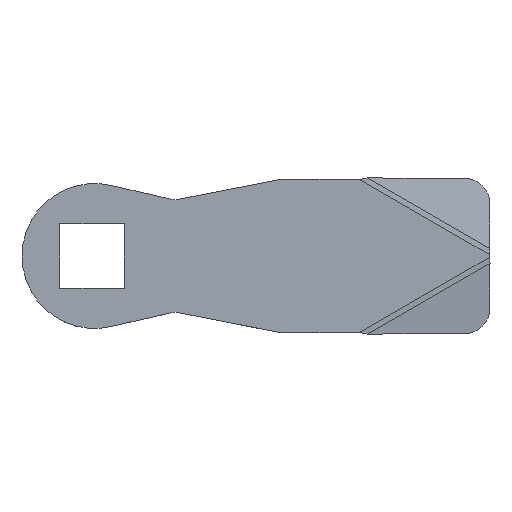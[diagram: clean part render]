
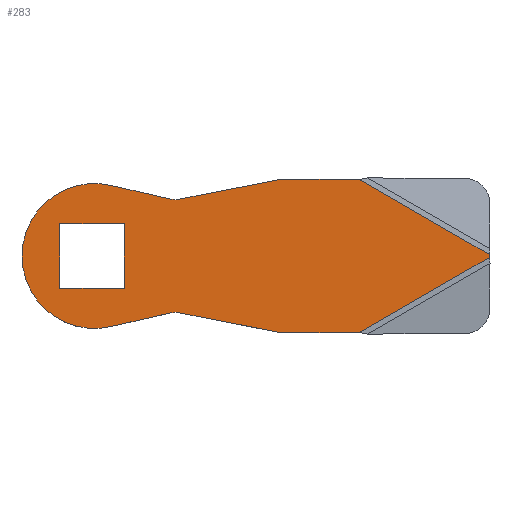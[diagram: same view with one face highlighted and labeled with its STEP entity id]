
A CAD part, top view. The second image highlights one B-rep face of the part: STEP entity #283.
In plain terms, the highlighted planar face has unit normal (0, 0, 1).
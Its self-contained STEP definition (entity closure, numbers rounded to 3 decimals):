
#12 = VERTEX_POINT ( 'NONE', #515 ) ;
#13 = VERTEX_POINT ( 'NONE', #514 ) ;
#16 = ORIENTED_EDGE ( 'NONE', *, *, #37, .T. ) ;
#37 = EDGE_CURVE ( 'NONE', #12, #47, #469, .T. ) ;
#45 = EDGE_CURVE ( 'NONE', #102, #251, #380, .T. ) ;
#47 = VERTEX_POINT ( 'NONE', #375 ) ;
#77 = ORIENTED_EDGE ( 'NONE', *, *, #78, .T. ) ;
#78 = EDGE_CURVE ( 'NONE', #252, #79, #354, .T. ) ;
#79 = VERTEX_POINT ( 'NONE', #350 ) ;
#90 = VERTEX_POINT ( 'NONE', #447 ) ;
#91 = ORIENTED_EDGE ( 'NONE', *, *, #92, .T. ) ;
#92 = EDGE_CURVE ( 'NONE', #179, #93, #486, .T. ) ;
#93 = VERTEX_POINT ( 'NONE', #482 ) ;
#94 = ORIENTED_EDGE ( 'NONE', *, *, #95, .T. ) ;
#95 = EDGE_CURVE ( 'NONE', #93, #175, #481, .T. ) ;
#99 = ORIENTED_EDGE ( 'NONE', *, *, #120, .T. ) ;
#100 = VERTEX_POINT ( 'NONE', #670 ) ;
#101 = EDGE_CURVE ( 'NONE', #114, #108, #573, .T. ) ;
#102 = VERTEX_POINT ( 'NONE', #589 ) ;
#103 = ORIENTED_EDGE ( 'NONE', *, *, #104, .T. ) ;
#104 = EDGE_CURVE ( 'NONE', #108, #102, #565, .T. ) ;
#105 = ORIENTED_EDGE ( 'NONE', *, *, #45, .T. ) ;
#106 = ORIENTED_EDGE ( 'NONE', *, *, #113, .T. ) ;
#107 = ORIENTED_EDGE ( 'NONE', *, *, #101, .T. ) ;
#108 = VERTEX_POINT ( 'NONE', #588 ) ;
#109 = ORIENTED_EDGE ( 'NONE', *, *, #110, .T. ) ;
#110 = EDGE_CURVE ( 'NONE', #47, #115, #625, .T. ) ;
#111 = ORIENTED_EDGE ( 'NONE', *, *, #112, .T. ) ;
#112 = EDGE_CURVE ( 'NONE', #100, #114, #563, .T. ) ;
#113 = EDGE_CURVE ( 'NONE', #115, #100, #582, .T. ) ;
#114 = VERTEX_POINT ( 'NONE', #569 ) ;
#115 = VERTEX_POINT ( 'NONE', #568 ) ;
#120 = EDGE_CURVE ( 'NONE', #251, #252, #581, .T. ) ;
#170 = ORIENTED_EDGE ( 'NONE', *, *, #171, .T. ) ;
#171 = EDGE_CURVE ( 'NONE', #183, #13, #663, .T. ) ;
#172 = EDGE_LOOP ( 'NONE', ( #173, #177, #91, #94 ) ) ;
#173 = ORIENTED_EDGE ( 'NONE', *, *, #174, .T. ) ;
#174 = EDGE_CURVE ( 'NONE', #175, #176, #650, .T. ) ;
#175 = VERTEX_POINT ( 'NONE', #789 ) ;
#176 = VERTEX_POINT ( 'NONE', #788 ) ;
#177 = ORIENTED_EDGE ( 'NONE', *, *, #178, .T. ) ;
#178 = EDGE_CURVE ( 'NONE', #176, #179, #697, .T. ) ;
#179 = VERTEX_POINT ( 'NONE', #693 ) ;
#180 = EDGE_CURVE ( 'NONE', #79, #90, #692, .T. ) ;
#181 = ORIENTED_EDGE ( 'NONE', *, *, #182, .T. ) ;
#182 = EDGE_CURVE ( 'NONE', #90, #183, #687, .T. ) ;
#183 = VERTEX_POINT ( 'NONE', #683 ) ;
#209 = ORIENTED_EDGE ( 'NONE', *, *, #180, .T. ) ;
#251 = VERTEX_POINT ( 'NONE', #719 ) ;
#252 = VERTEX_POINT ( 'NONE', #718 ) ;
#283 = ADVANCED_FACE ( 'NONE', ( #880, #882 ), #875, .F. ) ;
#286 = EDGE_CURVE ( 'NONE', #12, #13, #850, .T. ) ;
#287 = ORIENTED_EDGE ( 'NONE', *, *, #286, .F. ) ;
#288 = EDGE_LOOP ( 'NONE', ( #287, #16, #109, #106, #111, #107, #103, #105, #99, #77, #209, #181, #170 ) ) ;
#350 = CARTESIAN_POINT ( 'NONE',  ( 9.44, -7.064, 3. ) ) ;
#351 = DIRECTION ( 'NONE',  ( 0.975, 0.224, 0. ) ) ;
#352 = VECTOR ( 'NONE', #351, 1000. ) ;
#353 = CARTESIAN_POINT ( 'NONE',  ( 9.44, -7.064, 3. ) ) ;
#354 = LINE ( 'NONE', #353, #352 ) ;
#375 = CARTESIAN_POINT ( 'NONE',  ( 49., 0.196, 3. ) ) ;
#376 = DIRECTION ( 'NONE',  ( 1., 0., 0. ) ) ;
#377 = DIRECTION ( 'NONE',  ( 0., 0., 1. ) ) ;
#378 = CARTESIAN_POINT ( 'NONE',  ( 0., 0., 3. ) ) ;
#379 = AXIS2_PLACEMENT_3D ( 'NONE', #378, #377, #376 ) ;
#380 = CIRCLE ( 'NONE', #379, 9. ) ;
#447 = CARTESIAN_POINT ( 'NONE',  ( 10.481, -7.047, 3. ) ) ;
#466 = DIRECTION ( 'NONE',  ( 0., 1., 0. ) ) ;
#467 = VECTOR ( 'NONE', #466, 1000. ) ;
#468 = CARTESIAN_POINT ( 'NONE',  ( 49., 6.5, 3. ) ) ;
#469 = LINE ( 'NONE', #468, #467 ) ;
#478 = DIRECTION ( 'NONE',  ( 1., 0., 0. ) ) ;
#479 = VECTOR ( 'NONE', #478, 1000. ) ;
#480 = CARTESIAN_POINT ( 'NONE',  ( 10., 4., 3. ) ) ;
#481 = LINE ( 'NONE', #480, #479 ) ;
#482 = CARTESIAN_POINT ( 'NONE',  ( -4.3, 4., 3. ) ) ;
#483 = DIRECTION ( 'NONE',  ( 0., 1., 0. ) ) ;
#484 = VECTOR ( 'NONE', #483, 1000. ) ;
#485 = CARTESIAN_POINT ( 'NONE',  ( -4.3, -9.5, 3. ) ) ;
#486 = LINE ( 'NONE', #485, #484 ) ;
#514 = CARTESIAN_POINT ( 'NONE',  ( 32.885, -9.5, 3. ) ) ;
#515 = CARTESIAN_POINT ( 'NONE',  ( 49., -0.196, 3. ) ) ;
#549 = DIRECTION ( 'NONE',  ( 1., 0., 0. ) ) ;
#550 = DIRECTION ( 'NONE',  ( 0., 0., 1. ) ) ;
#562 = CARTESIAN_POINT ( 'NONE',  ( 10.481, 7.047, 3. ) ) ;
#563 = LINE ( 'NONE', #562, #587 ) ;
#564 = CARTESIAN_POINT ( 'NONE',  ( 9.44, 7.064, 3. ) ) ;
#565 = LINE ( 'NONE', #564, #669 ) ;
#568 = CARTESIAN_POINT ( 'NONE',  ( 32.885, 9.5, 3. ) ) ;
#569 = CARTESIAN_POINT ( 'NONE',  ( 10.481, 7.047, 3. ) ) ;
#570 = AXIS2_PLACEMENT_3D ( 'NONE', #571, #572, #574 ) ;
#571 = CARTESIAN_POINT ( 'NONE',  ( 10., 9.5, 3. ) ) ;
#572 = DIRECTION ( 'NONE',  ( 0., 0., -1. ) ) ;
#573 = CIRCLE ( 'NONE', #570, 2.5 ) ;
#574 = DIRECTION ( 'NONE',  ( 1., 0., 0. ) ) ;
#575 = CARTESIAN_POINT ( 'NONE',  ( 0., 0., 3. ) ) ;
#576 = AXIS2_PLACEMENT_3D ( 'NONE', #575, #550, #549 ) ;
#581 = CIRCLE ( 'NONE', #576, 9. ) ;
#582 = LINE ( 'NONE', #628, #627 ) ;
#583 = DIRECTION ( 'NONE',  ( -0.866, 0.5, 0. ) ) ;
#584 = VECTOR ( 'NONE', #583, 1000. ) ;
#585 = CARTESIAN_POINT ( 'NONE',  ( 23.948, 14.659, 3. ) ) ;
#586 = DIRECTION ( 'NONE',  ( -0.981, -0.192, 0. ) ) ;
#587 = VECTOR ( 'NONE', #586, 1000. ) ;
#588 = CARTESIAN_POINT ( 'NONE',  ( 9.44, 7.064, 3. ) ) ;
#589 = CARTESIAN_POINT ( 'NONE',  ( 2.018, 8.771, 3. ) ) ;
#625 = LINE ( 'NONE', #585, #584 ) ;
#626 = DIRECTION ( 'NONE',  ( -1., 0., 0. ) ) ;
#627 = VECTOR ( 'NONE', #626, 1000. ) ;
#628 = CARTESIAN_POINT ( 'NONE',  ( 46., 9.5, 3. ) ) ;
#647 = DIRECTION ( 'NONE',  ( 0., -1., 0. ) ) ;
#648 = VECTOR ( 'NONE', #647, 1000. ) ;
#649 = CARTESIAN_POINT ( 'NONE',  ( 3.7, -9.5, 3. ) ) ;
#650 = LINE ( 'NONE', #649, #648 ) ;
#659 = DIRECTION ( 'NONE',  ( 1., 0., 0. ) ) ;
#660 = VECTOR ( 'NONE', #659, 1000. ) ;
#661 = CARTESIAN_POINT ( 'NONE',  ( 46., -9.5, 3. ) ) ;
#663 = LINE ( 'NONE', #661, #660 ) ;
#668 = DIRECTION ( 'NONE',  ( -0.975, 0.224, 0. ) ) ;
#669 = VECTOR ( 'NONE', #668, 1000. ) ;
#670 = CARTESIAN_POINT ( 'NONE',  ( 23., 9.5, 3. ) ) ;
#683 = CARTESIAN_POINT ( 'NONE',  ( 23., -9.5, 3. ) ) ;
#684 = DIRECTION ( 'NONE',  ( 0.981, -0.192, 0. ) ) ;
#685 = VECTOR ( 'NONE', #684, 1000. ) ;
#686 = CARTESIAN_POINT ( 'NONE',  ( 10.481, -7.047, 3. ) ) ;
#687 = LINE ( 'NONE', #686, #685 ) ;
#688 = DIRECTION ( 'NONE',  ( -1., 0., 0. ) ) ;
#689 = DIRECTION ( 'NONE',  ( 0., 0., -1. ) ) ;
#690 = CARTESIAN_POINT ( 'NONE',  ( 10., -9.5, 3. ) ) ;
#691 = AXIS2_PLACEMENT_3D ( 'NONE', #690, #689, #688 ) ;
#692 = CIRCLE ( 'NONE', #691, 2.5 ) ;
#693 = CARTESIAN_POINT ( 'NONE',  ( -4.3, -4., 3. ) ) ;
#694 = DIRECTION ( 'NONE',  ( -1., 0., 0. ) ) ;
#695 = VECTOR ( 'NONE', #694, 1000. ) ;
#696 = CARTESIAN_POINT ( 'NONE',  ( 10., -4., 3. ) ) ;
#697 = LINE ( 'NONE', #696, #695 ) ;
#718 = CARTESIAN_POINT ( 'NONE',  ( 2.018, -8.771, 3. ) ) ;
#719 = CARTESIAN_POINT ( 'NONE',  ( -9., 0., 3. ) ) ;
#788 = CARTESIAN_POINT ( 'NONE',  ( 3.7, -4., 3. ) ) ;
#789 = CARTESIAN_POINT ( 'NONE',  ( 3.7, 4., 3. ) ) ;
#847 = DIRECTION ( 'NONE',  ( -0.866, -0.5, 0. ) ) ;
#848 = VECTOR ( 'NONE', #847, 1000. ) ;
#849 = CARTESIAN_POINT ( 'NONE',  ( 15.721, -19.409, 3. ) ) ;
#850 = LINE ( 'NONE', #849, #848 ) ;
#871 = DIRECTION ( 'NONE',  ( -1., 0., 0. ) ) ;
#872 = DIRECTION ( 'NONE',  ( 0., 0., -1. ) ) ;
#873 = CARTESIAN_POINT ( 'NONE',  ( 10., -9.5, 3. ) ) ;
#874 = AXIS2_PLACEMENT_3D ( 'NONE', #873, #872, #871 ) ;
#875 = PLANE ( 'NONE',  #874 ) ;
#880 = FACE_OUTER_BOUND ( 'NONE', #288, .T. ) ;
#882 = FACE_BOUND ( 'NONE', #172, .T. ) ;
